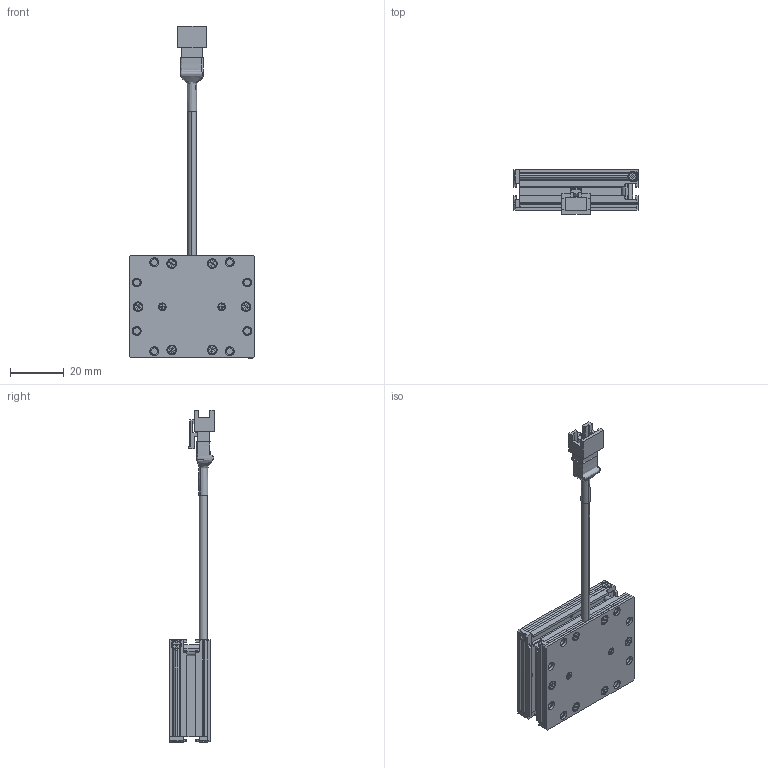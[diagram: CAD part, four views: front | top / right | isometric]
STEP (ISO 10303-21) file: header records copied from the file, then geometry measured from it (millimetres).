
FILE_DESCRIPTION (( 'STEP AP214' ), '1' );
FILE_NAME ('TMDF3001D101B_VDF-3325.STEP', '2023-04-28T08:26:23', ( '' ), ( '' ), 'SwSTEP 2.0', 'SolidWorks 2018', '' );
FILE_SCHEMA (( 'AUTOMOTIVE_DESIGN' ));
Length unit declared in the file: millimetre
Products named in the file (1): TMDF3001D101B_VDF-3325
Bounding box: 46 x 16.55 x 123.09 mm (x, y, z)
Surface area: 14887.5 mm2 (no closed solid volume)
Topology: 0 solids, 28 shells, 574 faces, 1686 edges, 1142 vertices
Faces by surface type: plane 376, cylinder 154, cone 42, bspline 2
Entity records: 26628 total; most frequent: CARTESIAN_POINT 4943, DIRECTION 3126, ORIENTED_EDGE 3054, EDGE_CURVE 1686, LINE 1224, VECTOR 1224, VERTEX_POINT 1142, AXIS2_PLACEMENT_3D 951
